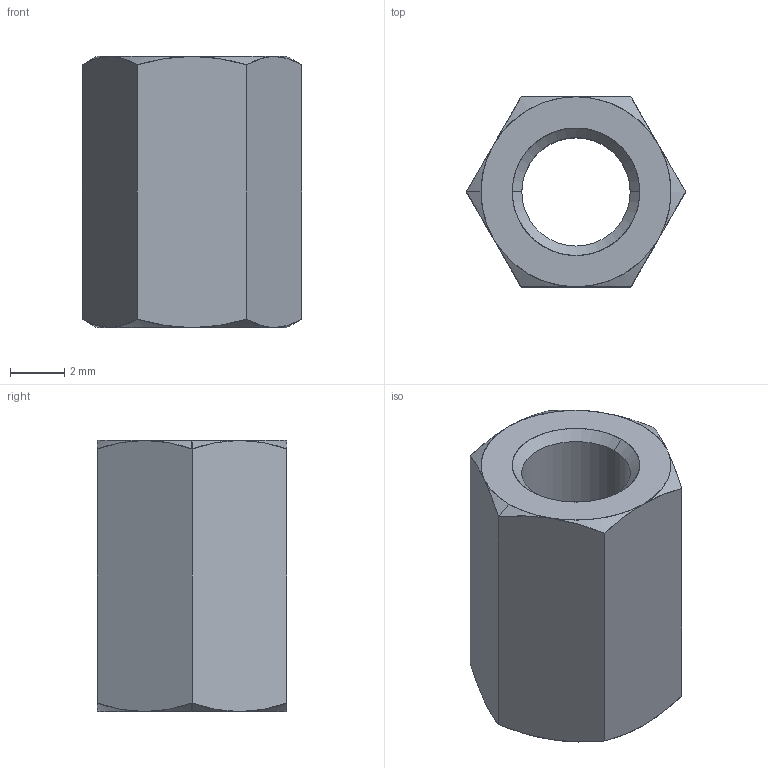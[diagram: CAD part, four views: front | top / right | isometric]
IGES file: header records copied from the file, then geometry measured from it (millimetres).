
Start section: SolidWorks IGES file using analytic representation for surfaces
Global section: file name: C:\Users\ianosborn\Desktop\N0503.NP_v2\N0503.NP_v2_20250227_IGES\N0503.040-010-NP.igs; native system: SolidWorks 2019; preprocessor: SolidWorks 2019; author: IanOsborn; date: 250227.144229; units: millimetre
Bounding box: 8.08 x 7 x 10 mm (x, y, z)
Surface area: 419.1 mm2 (no closed solid volume)
Topology: 0 solids, 0 shells, 28 faces, 286 edges, 286 vertices
Faces by surface type: revolution 20, bspline 8
